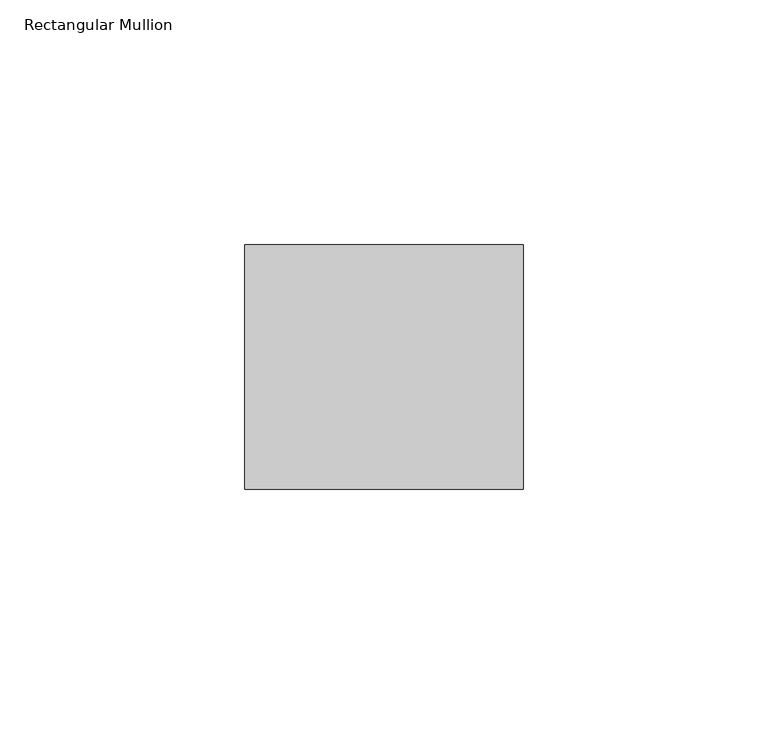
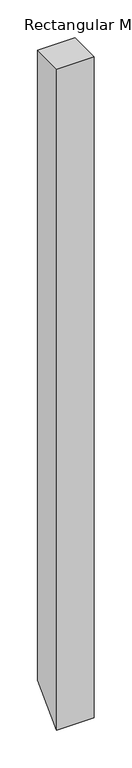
"""IFC4 building model written with IfcOpenShell, lengths in millimetres: member geometry, Rectangular Mullion : CEILING_TRACK 85-KLP00-P80-SD57XC."""

from ifc_helpers import new_model, si_unit, frame, origin, place, context, project, spatial, polyline, outline, extrude, source, transform, mapped, element, save


def rectangular_mullion_fba84aa1(model_context):
    return source(origin(), model_context, "Body", "SweptSolid", [
        extrude(outline(polyline([(-25.0, 0.0), (25.0, 0.0), (25.0, -1013.5), (-25.0, -1063.5), (-25.0, 0.0)])), frame((-57.0, 0.0, 0.0), z_axis=(1.0, 0.0, 0.0), x_axis=(0.0, 1.0, 0.0)), (0.0, 0.0, 1.0), 57.0),
    ])


if __name__ == "__main__":
    model = new_model("IFC4")
    model_context = context("Model", 3, world=origin())
    ifc_project = project(units=[si_unit("LENGTHUNIT", "METRE", prefix="MILLI")], contexts=[model_context])
    site = spatial("IfcSite", under=ifc_project)
    building = spatial("IfcBuilding", under=site)
    placement = place(None, origin())
    rectangular_mullion_shape = rectangular_mullion_fba84aa1(model_context)
    element("IfcMember", 1, ObjectType="Rectangular Mullion : CEILING_TRACK 85-KLP00-P80-SD57XC", at=placement, inside=building, context=model_context, shape_type="MappedRepresentation", body=[
        mapped(rectangular_mullion_shape, transform((0.0, 0.0, 0.0), x_axis=(1.0, 0.0, 0.0), y_axis=(0.0, 1.0, 0.0), z_axis=(0.0, 0.0, 1.0))),
    ])
    save(model, "model.ifc")
